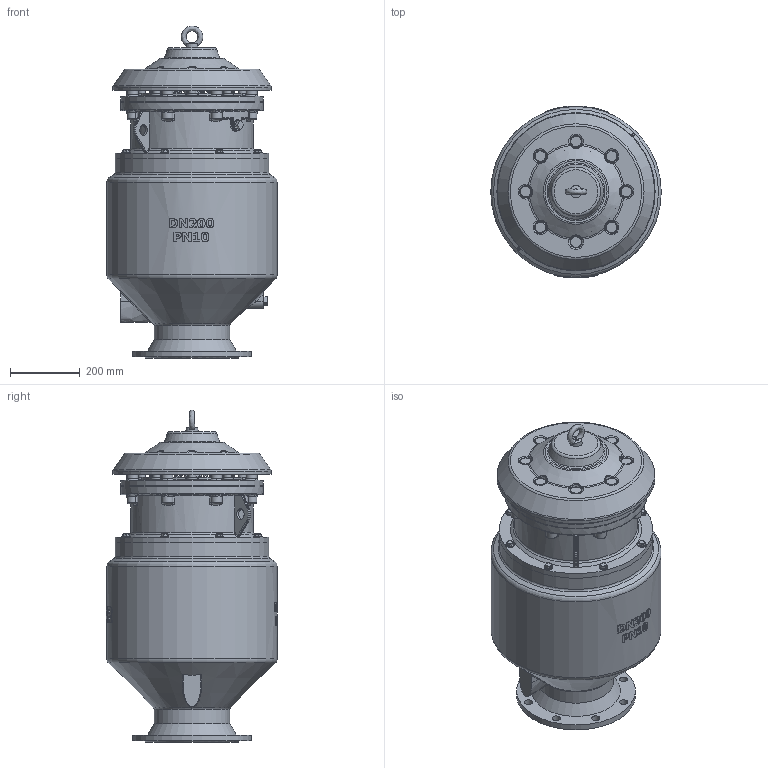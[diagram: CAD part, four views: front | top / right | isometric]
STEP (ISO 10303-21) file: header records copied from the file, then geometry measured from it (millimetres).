
FILE_DESCRIPTION(('STEP AP203'), '1');
FILE_NAME('Âîçäóøíûé êëàïàí FLOWJET SR', '', ('UNSPECIFIED'), ('UNSPECIFIED'), 'C3D Converter', 'C3D Toolkit', '');
FILE_SCHEMA(('CONFIG_CONTROL_DESIGN'));
Length unit declared in the file: millimetre
Assembly tree (70 placements, depth 2):
  (unnamed)
    (unnamed)
    (unnamed)
    (unnamed)
    (unnamed)
    (unnamed)
    (unnamed)
    (unnamed)
    (unnamed)
    (unnamed)
    (unnamed)
    (unnamed)
    (unnamed)  x8
    (unnamed)
    (unnamed)  x8
    (unnamed)  x8
    (unnamed)  x8
    (unnamed)  x8
    (unnamed)  x8
    (unnamed)  x8
    (unnamed)  x2
Bounding box: 488 x 492 x 949.98 mm (x, y, z)
Volume: 15090317.4 mm3; surface area: 4975797.5 mm2
Topology: 71 solids, 73 shells, 2063 faces, 5077 edges, 3204 vertices
Faces by surface type: plane 700, bspline 450, cylinder 445, torus 209, extrusion 134, cone 116, sphere 9
Full cylindrical faces by diameter (mm): 9.026 x8, 10 x32, 10.5 x8, 11 x8, 11.026 x8, 12 x16, 13 x10, 16 x55, 18 x8, 20 x10, 21 x1, 21.3 x3, 22 x8, 23 x8, 24 x17, 25.6 x8, 30 x4, 32 x10, 48 x1, 54.823 x1, 192 x1, 200 x2, 216 x1, 240 x1, 242 x1, 256 x1, 282.667 x1, 288 x2, 304 x2, 308 x3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
Entity records: 133285 total; most frequent: CARTESIAN_POINT 96122, ORIENTED_EDGE 7254, DIRECTION 5349, EDGE_CURVE 3634, VERTEX_POINT 2450, AXIS2_PLACEMENT_3D 2213, EDGE_LOOP 2118, B_SPLINE_CURVE_WITH_KNOTS 1775
